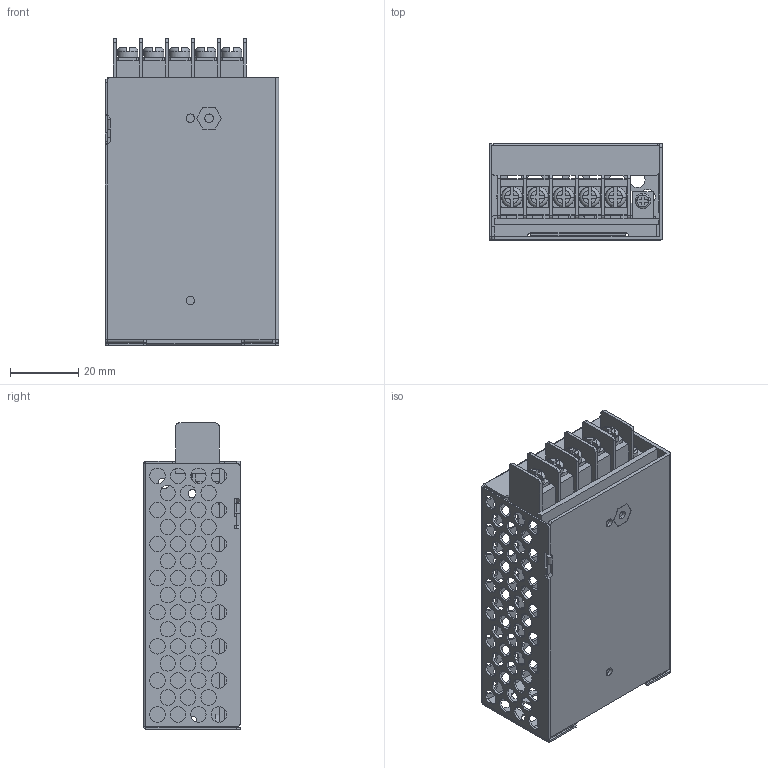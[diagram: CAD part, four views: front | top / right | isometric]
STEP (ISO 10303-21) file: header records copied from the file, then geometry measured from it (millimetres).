
FILE_DESCRIPTION(/* description */ ('VariCAD 2010-1.04 AP-203'),/* implementation_level */ '2;1');
FILE_NAME(/* name */ '0353-02-41',/* time_stamp */ '2010-01-25T18:18:27-07:00',/* author */ (''),/* organization */ (''),/* preprocessor_version */ 'ST-DEVELOPER v12',/* originating_system */ 'VariCAD 2010-1.04; kernel version (20090520)',/* authorisation */ '');
FILE_SCHEMA (('CONFIG_CONTROL_DESIGN'));
Length unit declared in the file: millimetre
Products named in the file (1): Part
Bounding box: 51 x 28.25 x 89.75 mm (x, y, z)
Volume: 20417.4 mm3; surface area: 35925 mm2
Topology: 1 solids, 1 shells, 860 faces, 2559 edges, 1680 vertices
Faces by surface type: cylinder 502, plane 341, torus 17
Entity records: 30343 total; most frequent: CARTESIAN_POINT 5436, DIRECTION 5285, ORIENTED_EDGE 5118, EDGE_CURVE 2559, AXIS2_PLACEMENT_3D 1919, VERTEX_POINT 1680, LINE 1447, VECTOR 1447
